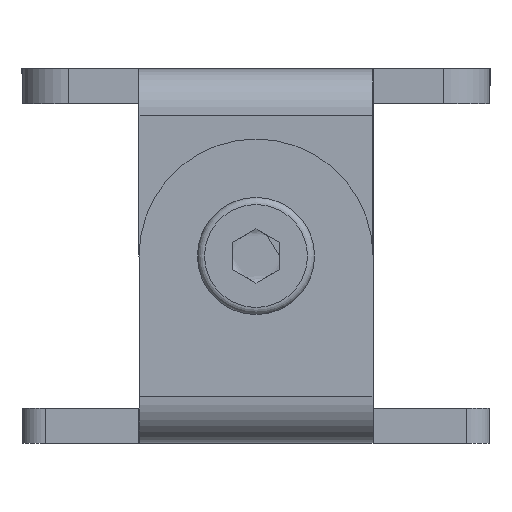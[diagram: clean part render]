
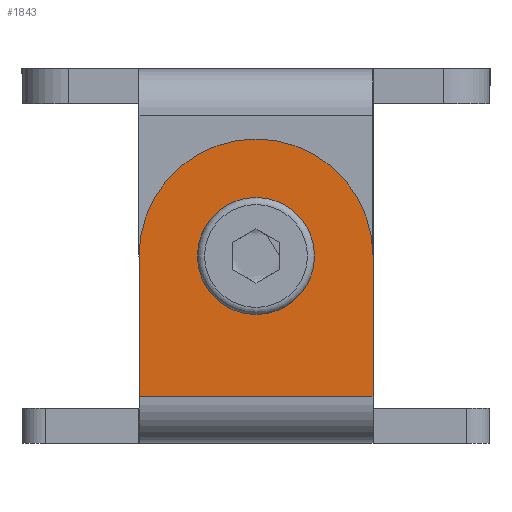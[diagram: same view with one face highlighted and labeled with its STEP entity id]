
A CAD part, left-side view. The second image highlights one B-rep face of the part: STEP entity #1843.
In plain terms, the highlighted planar face has unit normal (-1, 0, 0).
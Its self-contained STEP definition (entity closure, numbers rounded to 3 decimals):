
#97=FACE_BOUND('',#342,.T.);
#137=PLANE('',#2083);
#228=FACE_OUTER_BOUND('',#341,.T.);
#341=EDGE_LOOP('',(#1503,#1504,#1505,#1506));
#342=EDGE_LOOP('',(#1507));
#475=LINE('',#2981,#651);
#486=LINE('',#3008,#662);
#491=LINE('',#3024,#667);
#651=VECTOR('',#2439,2.32);
#662=VECTOR('',#2464,10.);
#667=VECTOR('',#2483,10.);
#787=CIRCLE('',#2063,3.25);
#789=CIRCLE('',#2067,10.);
#894=VERTEX_POINT('',#2961);
#899=VERTEX_POINT('',#2974);
#900=VERTEX_POINT('',#2975);
#901=VERTEX_POINT('',#2980);
#910=VERTEX_POINT('',#3007);
#1100=EDGE_CURVE('',#894,#894,#787,.T.);
#1105=EDGE_CURVE('',#899,#900,#789,.T.);
#1108=EDGE_CURVE('',#900,#901,#475,.T.);
#1121=EDGE_CURVE('',#910,#901,#486,.T.);
#1130=EDGE_CURVE('',#910,#899,#491,.T.);
#1503=ORIENTED_EDGE('',*,*,#1105,.F.);
#1504=ORIENTED_EDGE('',*,*,#1130,.F.);
#1505=ORIENTED_EDGE('',*,*,#1121,.T.);
#1506=ORIENTED_EDGE('',*,*,#1108,.F.);
#1507=ORIENTED_EDGE('',*,*,#1100,.T.);
#1843=ADVANCED_FACE('',(#228,#97),#137,.F.);
#2063=AXIS2_PLACEMENT_3D('',#2963,#2422,#2423);
#2067=AXIS2_PLACEMENT_3D('',#2976,#2433,#2434);
#2083=AXIS2_PLACEMENT_3D('',#3025,#2484,#2485);
#2422=DIRECTION('center_axis',(1.,0.,0.));
#2423=DIRECTION('ref_axis',(0.,0.,-1.));
#2433=DIRECTION('center_axis',(1.,0.,0.));
#2434=DIRECTION('ref_axis',(0.,-0.707,0.707));
#2439=DIRECTION('',(0.,0.,-1.));
#2464=DIRECTION('',(0.,-1.,0.));
#2483=DIRECTION('',(0.,0.,1.));
#2484=DIRECTION('center_axis',(1.,0.,0.));
#2485=DIRECTION('ref_axis',(0.,0.,-1.));
#2961=CARTESIAN_POINT('',(-235.,0.,19.25));
#2963=CARTESIAN_POINT('Origin',(-235.,0.,16.));
#2974=CARTESIAN_POINT('',(-235.,10.,16.));
#2975=CARTESIAN_POINT('',(-235.,-10.,16.));
#2976=CARTESIAN_POINT('Origin',(-235.,0.,16.));
#2980=CARTESIAN_POINT('',(-235.,-10.,4.));
#2981=CARTESIAN_POINT('',(-235.,-10.,-3.288));
#3007=CARTESIAN_POINT('',(-235.,10.,4.));
#3008=CARTESIAN_POINT('',(-235.,0.,4.));
#3024=CARTESIAN_POINT('',(-235.,10.,4.));
#3025=CARTESIAN_POINT('Origin',(-235.,0.,13.178));
